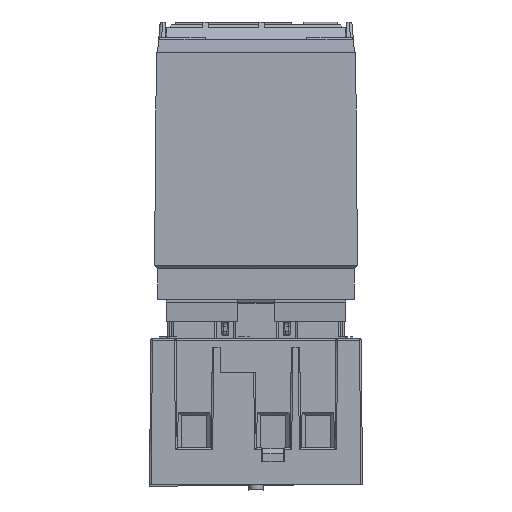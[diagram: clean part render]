
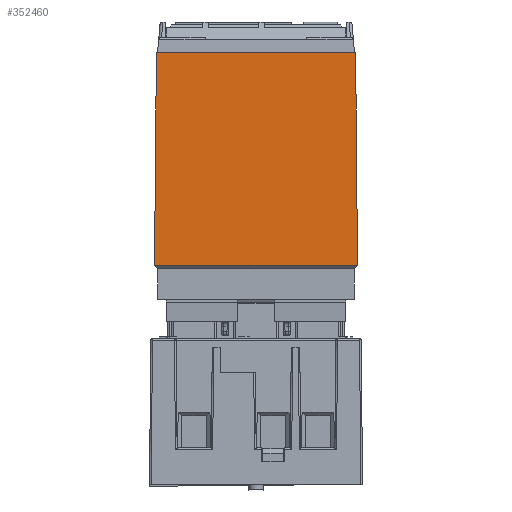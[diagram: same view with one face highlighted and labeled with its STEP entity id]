
A CAD part, front view. The second image highlights one B-rep face of the part: STEP entity #352460.
In plain terms, the highlighted planar face has unit normal (0, -1, 0.009).
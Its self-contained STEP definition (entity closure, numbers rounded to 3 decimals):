
#350110 = VERTEX_POINT('',#350111);
#350111 = CARTESIAN_POINT('',(18.107,-24.129,
    39.06));
#350132 = PLANE('',#350133);
#350133 = AXIS2_PLACEMENT_3D('',#350134,#350135,#350136);
#350134 = CARTESIAN_POINT('',(18.16,12.138,33.));
#350135 = DIRECTION('',(1.,0.,
    0.009));
#350136 = DIRECTION('',(0.009,0.,-1.));
#350160 = PLANE('',#350161);
#350161 = AXIS2_PLACEMENT_3D('',#350162,#350163,#350164);
#350162 = CARTESIAN_POINT('',(0.,-23.579,38.5)
  );
#350163 = DIRECTION('',(0.,0.713,0.701));
#350164 = DIRECTION('',(0.,-0.701,0.713));
#351197 = PLANE('',#351198);
#351198 = AXIS2_PLACEMENT_3D('',#351199,#351200,#351201);
#351199 = CARTESIAN_POINT('',(0.,-6.022,77.));
#351200 = DIRECTION('',(0.,0.,1.));
#351201 = DIRECTION('',(1.,0.,0.));
#352191 = EDGE_CURVE('',#352192,#350110,#352194,.T.);
#352192 = VERTEX_POINT('',#352193);
#352193 = CARTESIAN_POINT('',(-18.107,-24.129,
    39.06));
#352194 = SURFACE_CURVE('',#352195,(#352199,#352206),.PCURVE_S1.);
#352195 = LINE('',#352196,#352197);
#352196 = CARTESIAN_POINT('',(-18.16,-24.129,39.06));
#352197 = VECTOR('',#352198,1.);
#352198 = DIRECTION('',(1.,0.,0.));
#352199 = PCURVE('',#350160,#352200);
#352200 = DEFINITIONAL_REPRESENTATION('',(#352201),#352205);
#352201 = LINE('',#352202,#352203);
#352202 = CARTESIAN_POINT('',(0.785,-18.16));
#352203 = VECTOR('',#352204,1.);
#352204 = DIRECTION('',(0.,1.));
#352205 = ( GEOMETRIC_REPRESENTATION_CONTEXT(2) 
PARAMETRIC_REPRESENTATION_CONTEXT() REPRESENTATION_CONTEXT('2D SPACE',''
  ) );
#352206 = PCURVE('',#352207,#352212);
#352207 = PLANE('',#352208);
#352208 = AXIS2_PLACEMENT_3D('',#352209,#352210,#352211);
#352209 = CARTESIAN_POINT('',(-18.16,-24.182,33.));
#352210 = DIRECTION('',(0.,-1.,0.009));
#352211 = DIRECTION('',(0.,-0.009,-1.));
#352212 = DEFINITIONAL_REPRESENTATION('',(#352213),#352217);
#352213 = LINE('',#352214,#352215);
#352214 = CARTESIAN_POINT('',(-6.06,0.));
#352215 = VECTOR('',#352216,1.);
#352216 = DIRECTION('',(0.,1.));
#352217 = ( GEOMETRIC_REPRESENTATION_CONTEXT(2) 
PARAMETRIC_REPRESENTATION_CONTEXT() REPRESENTATION_CONTEXT('2D SPACE',''
  ) );
#352267 = VERTEX_POINT('',#352268);
#352268 = CARTESIAN_POINT('',(17.776,-23.798,77.));
#352289 = EDGE_CURVE('',#350110,#352267,#352290,.T.);
#352290 = SURFACE_CURVE('',#352291,(#352295,#352302),.PCURVE_S1.);
#352291 = LINE('',#352292,#352293);
#352292 = CARTESIAN_POINT('',(18.107,-24.129,
    39.06));
#352293 = VECTOR('',#352294,1.);
#352294 = DIRECTION('',(-0.009,0.009,
    1.));
#352295 = PCURVE('',#350132,#352296);
#352296 = DEFINITIONAL_REPRESENTATION('',(#352297),#352301);
#352297 = LINE('',#352298,#352299);
#352298 = CARTESIAN_POINT('',(-6.06,-36.267));
#352299 = VECTOR('',#352300,1.);
#352300 = DIRECTION('',(-1.,0.009));
#352301 = ( GEOMETRIC_REPRESENTATION_CONTEXT(2) 
PARAMETRIC_REPRESENTATION_CONTEXT() REPRESENTATION_CONTEXT('2D SPACE',''
  ) );
#352302 = PCURVE('',#352207,#352303);
#352303 = DEFINITIONAL_REPRESENTATION('',(#352304),#352308);
#352304 = LINE('',#352305,#352306);
#352305 = CARTESIAN_POINT('',(-6.06,36.267));
#352306 = VECTOR('',#352307,1.);
#352307 = DIRECTION('',(-1.,-0.009));
#352308 = ( GEOMETRIC_REPRESENTATION_CONTEXT(2) 
PARAMETRIC_REPRESENTATION_CONTEXT() REPRESENTATION_CONTEXT('2D SPACE',''
  ) );
#352422 = PLANE('',#352423);
#352423 = AXIS2_PLACEMENT_3D('',#352424,#352425,#352426);
#352424 = CARTESIAN_POINT('',(-18.16,12.138,33.));
#352425 = DIRECTION('',(-1.,0.,
    0.009));
#352426 = DIRECTION('',(0.009,0.,
    1.));
#352460 = ADVANCED_FACE('',(#352461),#352207,.T.);
#352461 = FACE_BOUND('',#352462,.T.);
#352462 = EDGE_LOOP('',(#352463,#352464,#352487,#352508));
#352463 = ORIENTED_EDGE('',*,*,#352289,.T.);
#352464 = ORIENTED_EDGE('',*,*,#352465,.F.);
#352465 = EDGE_CURVE('',#352466,#352267,#352468,.T.);
#352466 = VERTEX_POINT('',#352467);
#352467 = CARTESIAN_POINT('',(-17.776,-23.798,77.));
#352468 = SURFACE_CURVE('',#352469,(#352473,#352480),.PCURVE_S1.);
#352469 = LINE('',#352470,#352471);
#352470 = CARTESIAN_POINT('',(0.,-23.798,77.));
#352471 = VECTOR('',#352472,1.);
#352472 = DIRECTION('',(1.,0.,0.));
#352473 = PCURVE('',#352207,#352474);
#352474 = DEFINITIONAL_REPRESENTATION('',(#352475),#352479);
#352475 = LINE('',#352476,#352477);
#352476 = CARTESIAN_POINT('',(-44.002,18.16));
#352477 = VECTOR('',#352478,1.);
#352478 = DIRECTION('',(0.,1.));
#352479 = ( GEOMETRIC_REPRESENTATION_CONTEXT(2) 
PARAMETRIC_REPRESENTATION_CONTEXT() REPRESENTATION_CONTEXT('2D SPACE',''
  ) );
#352480 = PCURVE('',#351197,#352481);
#352481 = DEFINITIONAL_REPRESENTATION('',(#352482),#352486);
#352482 = LINE('',#352483,#352484);
#352483 = CARTESIAN_POINT('',(0.,-17.776));
#352484 = VECTOR('',#352485,1.);
#352485 = DIRECTION('',(1.,0.));
#352486 = ( GEOMETRIC_REPRESENTATION_CONTEXT(2) 
PARAMETRIC_REPRESENTATION_CONTEXT() REPRESENTATION_CONTEXT('2D SPACE',''
  ) );
#352487 = ORIENTED_EDGE('',*,*,#352488,.F.);
#352488 = EDGE_CURVE('',#352192,#352466,#352489,.T.);
#352489 = SURFACE_CURVE('',#352490,(#352494,#352501),.PCURVE_S1.);
#352490 = LINE('',#352491,#352492);
#352491 = CARTESIAN_POINT('',(-18.107,-24.129,
    39.06));
#352492 = VECTOR('',#352493,1.);
#352493 = DIRECTION('',(0.009,0.009,
    1.));
#352494 = PCURVE('',#352207,#352495);
#352495 = DEFINITIONAL_REPRESENTATION('',(#352496),#352500);
#352496 = LINE('',#352497,#352498);
#352497 = CARTESIAN_POINT('',(-6.06,0.053));
#352498 = VECTOR('',#352499,1.);
#352499 = DIRECTION('',(-1.,0.009));
#352500 = ( GEOMETRIC_REPRESENTATION_CONTEXT(2) 
PARAMETRIC_REPRESENTATION_CONTEXT() REPRESENTATION_CONTEXT('2D SPACE',''
  ) );
#352501 = PCURVE('',#352422,#352502);
#352502 = DEFINITIONAL_REPRESENTATION('',(#352503),#352507);
#352503 = LINE('',#352504,#352505);
#352504 = CARTESIAN_POINT('',(6.06,-36.267));
#352505 = VECTOR('',#352506,1.);
#352506 = DIRECTION('',(1.,0.009));
#352507 = ( GEOMETRIC_REPRESENTATION_CONTEXT(2) 
PARAMETRIC_REPRESENTATION_CONTEXT() REPRESENTATION_CONTEXT('2D SPACE',''
  ) );
#352508 = ORIENTED_EDGE('',*,*,#352191,.T.);
